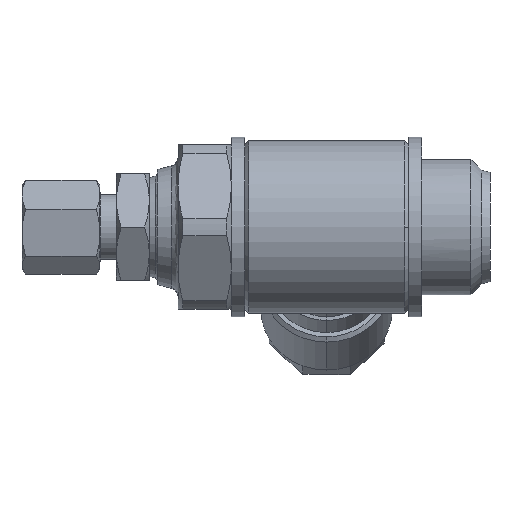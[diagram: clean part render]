
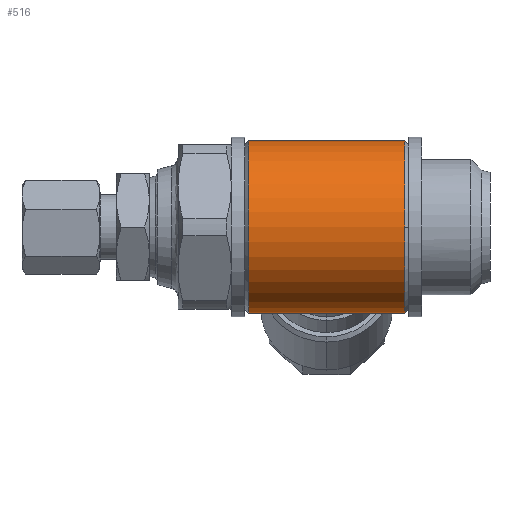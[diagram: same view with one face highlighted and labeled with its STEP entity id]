
A CAD part, left-side view. The second image highlights one B-rep face of the part: STEP entity #516.
In plain terms, the highlighted cylindrical face has radius 10.5 mm (diameter 21 mm), a partial arc.
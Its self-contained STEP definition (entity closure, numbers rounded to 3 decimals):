
#48 = LINE ( 'NONE', #2943, #6537 ) ;
#516 = ADVANCED_FACE ( 'NONE', ( #1008 ), #4047, .T. ) ;
#739 = CARTESIAN_POINT ( 'NONE',  ( -10.5, 10.4, 0. ) ) ;
#880 = DIRECTION ( 'NONE',  ( 0., -1., 0. ) ) ;
#952 = DIRECTION ( 'NONE',  ( 0., -1., 0. ) ) ;
#1008 = FACE_OUTER_BOUND ( 'NONE', #2919, .T. ) ;
#1287 = VERTEX_POINT ( 'NONE', #739 ) ;
#1454 = DIRECTION ( 'NONE',  ( 0., 0., -1. ) ) ;
#1845 = CIRCLE ( 'NONE', #5948, 10.5 ) ;
#1862 = VERTEX_POINT ( 'NONE', #2675 ) ;
#2018 = ORIENTED_EDGE ( 'NONE', *, *, #4121, .T. ) ;
#2084 = CARTESIAN_POINT ( 'NONE',  ( 0., 10.4, 0. ) ) ;
#2207 = DIRECTION ( 'NONE',  ( 0., -1., 0. ) ) ;
#2659 = DIRECTION ( 'NONE',  ( 0., 0., -1. ) ) ;
#2675 = CARTESIAN_POINT ( 'NONE',  ( 0., 10.4, -10.5 ) ) ;
#2919 = EDGE_LOOP ( 'NONE', ( #5398, #3898, #2018, #6134, #7340 ) ) ;
#2929 = DIRECTION ( 'NONE',  ( 0., 1., 0. ) ) ;
#2943 = CARTESIAN_POINT ( 'NONE',  ( 0., 8.9, -10.5 ) ) ;
#3114 = AXIS2_PLACEMENT_3D ( 'NONE', #7169, #880, #1454 ) ;
#3126 = AXIS2_PLACEMENT_3D ( 'NONE', #6344, #2929, #6925 ) ;
#3209 = CARTESIAN_POINT ( 'NONE',  ( 0., 8.9, 10.5 ) ) ;
#3697 = VERTEX_POINT ( 'NONE', #4548 ) ;
#3898 = ORIENTED_EDGE ( 'NONE', *, *, #5330, .T. ) ;
#4047 = CYLINDRICAL_SURFACE ( 'NONE', #3114, 10.5 ) ;
#4121 = EDGE_CURVE ( 'NONE', #3697, #1862, #48, .T. ) ;
#4137 = VERTEX_POINT ( 'NONE', #6360 ) ;
#4291 = EDGE_CURVE ( 'NONE', #1287, #7274, #4303, .T. ) ;
#4303 = CIRCLE ( 'NONE', #7352, 10.5 ) ;
#4548 = CARTESIAN_POINT ( 'NONE',  ( 0., 29.4, -10.5 ) ) ;
#5292 = EDGE_CURVE ( 'NONE', #4137, #7274, #6142, .T. ) ;
#5330 = EDGE_CURVE ( 'NONE', #4137, #3697, #1845, .T. ) ;
#5398 = ORIENTED_EDGE ( 'NONE', *, *, #5292, .F. ) ;
#5546 = EDGE_CURVE ( 'NONE', #1862, #1287, #7398, .T. ) ;
#5557 = CARTESIAN_POINT ( 'NONE',  ( 0., 10.4, 10.5 ) ) ;
#5616 = CARTESIAN_POINT ( 'NONE',  ( 0., 29.4, 0. ) ) ;
#5789 = DIRECTION ( 'NONE',  ( 0., -1., 0. ) ) ;
#5948 = AXIS2_PLACEMENT_3D ( 'NONE', #5616, #2207, #6184 ) ;
#6069 = DIRECTION ( 'NONE',  ( 0., 1., 0. ) ) ;
#6134 = ORIENTED_EDGE ( 'NONE', *, *, #5546, .T. ) ;
#6142 = LINE ( 'NONE', #3209, #6225 ) ;
#6184 = DIRECTION ( 'NONE',  ( 0., 0., -1. ) ) ;
#6225 = VECTOR ( 'NONE', #952, 1000. ) ;
#6344 = CARTESIAN_POINT ( 'NONE',  ( 0., 10.4, 0. ) ) ;
#6360 = CARTESIAN_POINT ( 'NONE',  ( 0., 29.4, 10.5 ) ) ;
#6537 = VECTOR ( 'NONE', #5789, 1000. ) ;
#6925 = DIRECTION ( 'NONE',  ( 0., 0., -1. ) ) ;
#7169 = CARTESIAN_POINT ( 'NONE',  ( 0., 8.9, 0. ) ) ;
#7274 = VERTEX_POINT ( 'NONE', #5557 ) ;
#7340 = ORIENTED_EDGE ( 'NONE', *, *, #4291, .T. ) ;
#7352 = AXIS2_PLACEMENT_3D ( 'NONE', #2084, #6069, #2659 ) ;
#7398 = CIRCLE ( 'NONE', #3126, 10.5 ) ;
